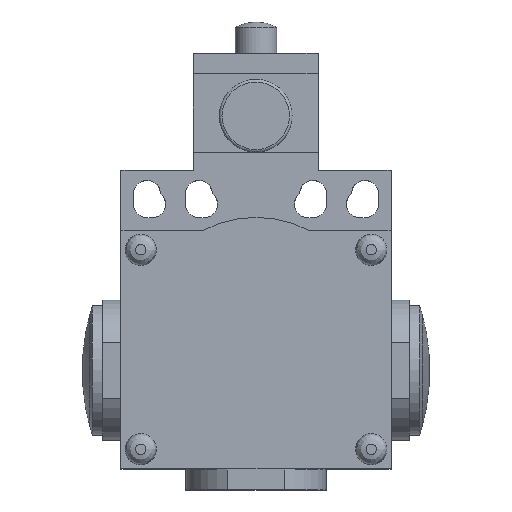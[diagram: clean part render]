
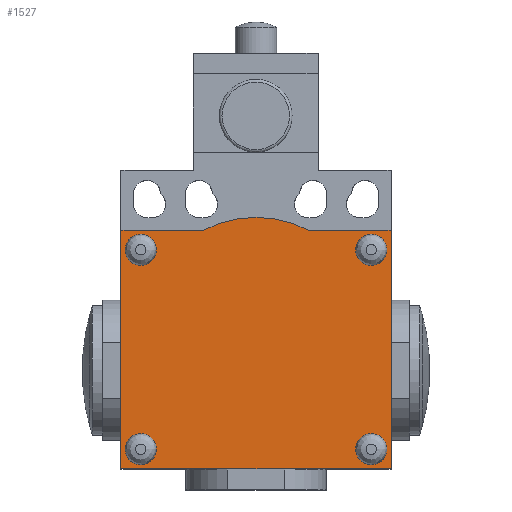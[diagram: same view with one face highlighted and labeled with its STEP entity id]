
A CAD part, top view. The second image highlights one B-rep face of the part: STEP entity #1527.
In plain terms, the highlighted planar face has unit normal (0, 0, 1).
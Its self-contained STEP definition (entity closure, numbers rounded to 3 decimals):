
#435=CARTESIAN_POINT('',(26.0,0.0,28.65));
#436=VERTEX_POINT('',#435);
#443=CARTESIAN_POINT('',(-26.,0.0,28.65));
#444=VERTEX_POINT('',#443);
#445=CARTESIAN_POINT('',(26.0,0.0,28.65));
#446=DIRECTION('',(-1.0,0.0,0.0));
#447=VECTOR('',#446,52.);
#448=LINE('',#445,#447);
#449=EDGE_CURVE('',#436,#444,#448,.T.);
#941=CARTESIAN_POINT('',(-26.,46.,28.65));
#942=VERTEX_POINT('',#941);
#943=CARTESIAN_POINT('',(-26.,0.0,28.65));
#944=DIRECTION('',(0.0,1.0,0.0));
#945=VECTOR('',#944,46.);
#946=LINE('',#943,#945);
#947=EDGE_CURVE('',#444,#942,#946,.T.);
#1063=CARTESIAN_POINT('',(-19.2,3.8,28.65));
#1064=VERTEX_POINT('',#1063);
#1065=CARTESIAN_POINT('',(-22.2,3.8,28.65));
#1066=DIRECTION('',(0.0,0.0,-1.0));
#1067=DIRECTION('',(-1.0,0.0,0.0));
#1068=AXIS2_PLACEMENT_3D('',#1065,#1066,#1067);
#1069=CIRCLE('',#1068,3.);
#1070=EDGE_CURVE('',#1064,#1064,#1069,.T.);
#1168=CARTESIAN_POINT('',(25.2,3.8,28.65));
#1169=VERTEX_POINT('',#1168);
#1170=CARTESIAN_POINT('',(22.2,3.8,28.65));
#1171=DIRECTION('',(0.0,0.0,-1.0));
#1172=DIRECTION('',(-1.0,0.0,0.0));
#1173=AXIS2_PLACEMENT_3D('',#1170,#1171,#1172);
#1174=CIRCLE('',#1173,3.);
#1175=EDGE_CURVE('',#1169,#1169,#1174,.T.);
#1273=CARTESIAN_POINT('',(25.2,42.2,28.65));
#1274=VERTEX_POINT('',#1273);
#1275=CARTESIAN_POINT('',(22.2,42.2,28.65));
#1276=DIRECTION('',(0.0,0.0,-1.0));
#1277=DIRECTION('',(-1.0,0.0,0.0));
#1278=AXIS2_PLACEMENT_3D('',#1275,#1276,#1277);
#1279=CIRCLE('',#1278,3.);
#1280=EDGE_CURVE('',#1274,#1274,#1279,.T.);
#1378=CARTESIAN_POINT('',(-19.2,42.2,28.65));
#1379=VERTEX_POINT('',#1378);
#1380=CARTESIAN_POINT('',(-22.2,42.2,28.65));
#1381=DIRECTION('',(0.0,0.0,-1.0));
#1382=DIRECTION('',(-1.0,0.0,0.0));
#1383=AXIS2_PLACEMENT_3D('',#1380,#1381,#1382);
#1384=CIRCLE('',#1383,3.);
#1385=EDGE_CURVE('',#1379,#1379,#1384,.T.);
#1407=CARTESIAN_POINT('',(-10.077,46.,28.65));
#1408=VERTEX_POINT('',#1407);
#1409=CARTESIAN_POINT('',(-26.,46.,28.65));
#1410=DIRECTION('',(1.0,0.0,0.0));
#1411=VECTOR('',#1410,15.923);
#1412=LINE('',#1409,#1411);
#1413=EDGE_CURVE('',#942,#1408,#1412,.T.);
#1438=CARTESIAN_POINT('',(10.077,46.,28.65));
#1439=VERTEX_POINT('',#1438);
#1440=CARTESIAN_POINT('',(0.,26.5,28.65));
#1441=DIRECTION('',(0.0,0.0,-1.));
#1442=DIRECTION('',(0.459,0.888,0.0));
#1443=AXIS2_PLACEMENT_3D('',#1440,#1441,#1442);
#1444=CIRCLE('',#1443,21.95);
#1445=EDGE_CURVE('',#1408,#1439,#1444,.T.);
#1471=CARTESIAN_POINT('',(26.0,46.,28.65));
#1472=VERTEX_POINT('',#1471);
#1473=CARTESIAN_POINT('',(10.077,46.,28.65));
#1474=DIRECTION('',(1.0,0.0,0.0));
#1475=VECTOR('',#1474,15.923);
#1476=LINE('',#1473,#1475);
#1477=EDGE_CURVE('',#1439,#1472,#1476,.T.);
#1497=CARTESIAN_POINT('',(0.,23.248,28.65));
#1498=DIRECTION('',(0.0,0.0,1.0));
#1499=DIRECTION('',(1.0,0.0,0.0));
#1500=AXIS2_PLACEMENT_3D('',#1497,#1498,#1499);
#1501=PLANE('',#1500);
#1502=ORIENTED_EDGE('',*,*,#947,.F.);
#1503=ORIENTED_EDGE('',*,*,#449,.F.);
#1504=CARTESIAN_POINT('',(26.0,46.,28.65));
#1505=DIRECTION('',(0.0,-1.0,0.0));
#1506=VECTOR('',#1505,46.);
#1507=LINE('',#1504,#1506);
#1508=EDGE_CURVE('',#1472,#436,#1507,.T.);
#1509=ORIENTED_EDGE('',*,*,#1508,.F.);
#1510=ORIENTED_EDGE('',*,*,#1477,.F.);
#1511=ORIENTED_EDGE('',*,*,#1445,.F.);
#1512=ORIENTED_EDGE('',*,*,#1413,.F.);
#1513=EDGE_LOOP('',(#1502,#1503,#1509,#1510,#1511,#1512));
#1514=FACE_OUTER_BOUND('',#1513,.T.);
#1515=ORIENTED_EDGE('',*,*,#1175,.T.);
#1516=EDGE_LOOP('',(#1515));
#1517=FACE_BOUND('',#1516,.T.);
#1518=ORIENTED_EDGE('',*,*,#1070,.T.);
#1519=EDGE_LOOP('',(#1518));
#1520=FACE_BOUND('',#1519,.T.);
#1521=ORIENTED_EDGE('',*,*,#1385,.T.);
#1522=EDGE_LOOP('',(#1521));
#1523=FACE_BOUND('',#1522,.T.);
#1524=ORIENTED_EDGE('',*,*,#1280,.T.);
#1525=EDGE_LOOP('',(#1524));
#1526=FACE_BOUND('',#1525,.T.);
#1527=ADVANCED_FACE('',(#1514,#1517,#1520,#1523,#1526),#1501,.T.);
